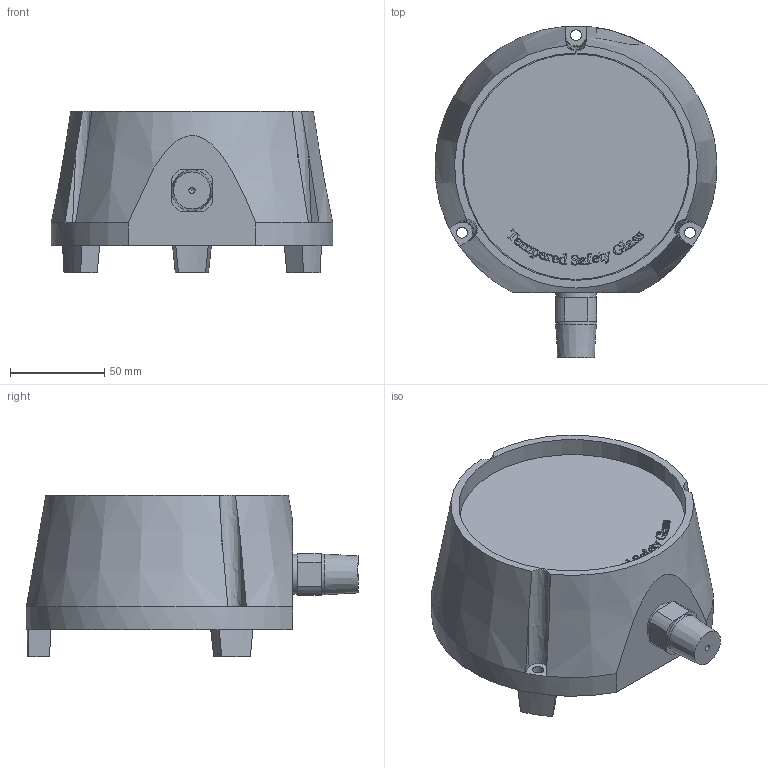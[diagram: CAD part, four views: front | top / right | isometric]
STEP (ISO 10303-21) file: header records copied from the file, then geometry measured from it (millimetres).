
FILE_DESCRIPTION(/* description */ (''),/* implementation_level */ '2;1');
FILE_NAME(/* name */ 'P:\Engineering Interns\Laura\Website 3D Parts and Drawings\Pressure Drawings\PT45\PT45 half NPT Bottom Connect.stp',/* time_stamp */ '2015-11-03T14:42:58-08:00',/* author */ ('JHRichter'),/* organization */ (''),/* preprocessor_version */ 'ST-DEVELOPER v15.2',/* originating_system */ 'Autodesk Inventor 2014',/* authorisation */ '');
FILE_SCHEMA (('AUTOMOTIVE_DESIGN { 1 0 10303 214 3 1 1 }'));
Length unit declared in the file: inch
Products named in the file (8): PT45 GAUGE; PT45 LENS; PT45 Dial; PT45 BLACK NEEDLE; PT45 NEEDLE GEAR; PT45 BLACK NEEDLE ASSEMBLY; DIAL SCREW; PT45 half NPT Bottom Connect
Bounding box: 149.07 x 175.74 x 85.47 mm (x, y, z)
Volume: 910410.5 mm3; surface area: 121674.4 mm2
Topology: 23 solids, 23 shells, 1675 faces, 4766 edges, 3174 vertices
Faces by surface type: plane 1045, bspline 588, cylinder 35, cone 5, sphere 2
Full cylindrical faces by diameter (mm): 1.6 x1, 1.74 x1, 2.286 x2, 3.251 x1, 3.937 x1, 3.988 x1, 5.842 x3, 5.994 x1, 7.874 x1, 8.89 x1, 21.223 x1, 21.59 x1, 109.982 x1, 113.03 x1, 119.38 x1, 120.396 x1
Entity records: 59426 total; most frequent: CARTESIAN_POINT 19012, ORIENTED_EDGE 9400, DIRECTION 5812, EDGE_CURVE 4700, LINE 3408, VECTOR 3408, VERTEX_POINT 3143, EDGE_LOOP 2019
